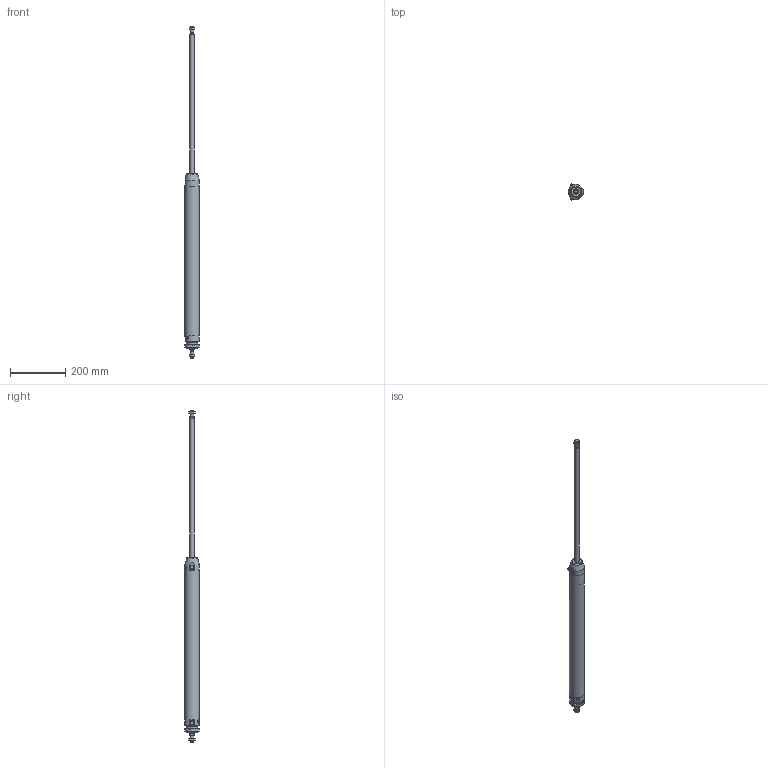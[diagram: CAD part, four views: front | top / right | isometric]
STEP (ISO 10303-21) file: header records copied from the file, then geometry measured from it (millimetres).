
FILE_DESCRIPTION(/* description */ (''),/* implementation_level */ '2;1');
FILE_NAME(/* name */ 'I:\Area Tecnica\Documenti\A-Manieri\_Inventor\12X\12X#T_###_####_#_#\12XDT_050_0500_#_#.stp',/* time_stamp */ '2015-05-13T09:09:45+02:00',/* author */ ('maniean1'),/* organization */ ('Pneumax S.p.A.'),/* preprocessor_version */ 'ST-DEVELOPER v15.2',/* originating_system */ 'Autodesk Inventor 2014',/* authorisation */ '');
FILE_SCHEMA (('AUTOMOTIVE_DESIGN { 1 0 10303 214 3 1 1 }'));
Length unit declared in the file: millimetre
Products named in the file (7): C1250_619-0500; 12X50_606; SP12X50_0500; 12X_50_11; 12X50_614; G12X_050_05; 12XDT_050_0500_#_#
Bounding box: 54 x 57.75 x 1202 mm (x, y, z)
Volume: 648892.7 mm3; surface area: 278346.6 mm2
Topology: 7 solids, 7 shells, 125 faces, 280 edges, 180 vertices
Faces by surface type: plane 66, cylinder 30, cone 26, torus 3
Full cylindrical faces by diameter (mm): 5 x2, 10.2 x2, 11 x2, 11.4 x2, 12 x4, 14 x2, 15.6 x2, 16 x2, 38.2 x1, 40 x3, 50 x2, 54 x3
Entity records: 3058 total; most frequent: CARTESIAN_POINT 614, DIRECTION 513, ORIENTED_EDGE 402, AXIS2_PLACEMENT_3D 219, EDGE_CURVE 201, EDGE_LOOP 178, VERTEX_POINT 153, ADVANCED_FACE 114
